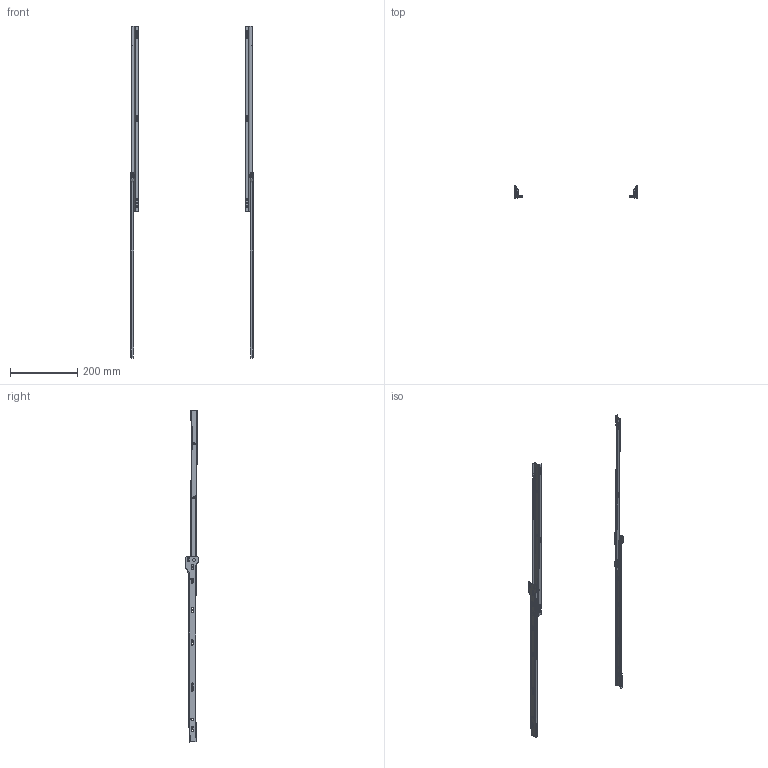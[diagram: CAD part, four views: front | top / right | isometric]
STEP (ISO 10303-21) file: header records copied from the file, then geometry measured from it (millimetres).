
FILE_DESCRIPTION(/* description */ (''),/* implementation_level */ '2;1');
FILE_NAME(/* name */ 'D:\$Workingspace\Designs\Katalog\Cadsoft\GTV Prowadnice\Prowadnice GTV_bryły 3D\PR-SP-550-10_wysunieta.stp',/* time_stamp */ '2016-11-22T15:27:30+01:00',/* author */ ('tomaszw'),/* organization */ (''),/* preprocessor_version */ 'ST-DEVELOPER v16.1',/* originating_system */ 'Autodesk Inventor 2016',/* authorisation */ '');
FILE_SCHEMA (('AUTOMOTIVE_DESIGN { 1 0 10303 214 3 1 1 }'));
Length unit declared in the file: millimetre
Products named in the file (5): PR-SP-550-10_CL; PR-SP-550-10_CR; PR-SP-550-10_DL; PR-SP-550-10_DR; PR-SP
Assembly tree (4 placements, depth 2):
  PR-SP
    PR-SP-550-10_CL
    PR-SP-550-10_CR
    PR-SP-550-10_DL
    PR-SP-550-10_DR
Bounding box: 364 x 36 x 985 mm (x, y, z)
Volume: 102187.8 mm3; surface area: 169237.6 mm2
Topology: 4 solids, 4 shells, 432 faces, 1080 edges, 668 vertices
Faces by surface type: cylinder 190, plane 158, cone 48, torus 28, sphere 8
Full cylindrical faces by diameter (mm): 5 x2, 5.4 x26, 5.5 x2, 6.4 x10, 7 x4, 8 x4, 18.5 x4
Entity records: 13177 total; most frequent: CARTESIAN_POINT 2271, DIRECTION 2268, ORIENTED_EDGE 1944, EDGE_CURVE 972, AXIS2_PLACEMENT_3D 869, VERTEX_POINT 660, EDGE_LOOP 652, LINE 530
